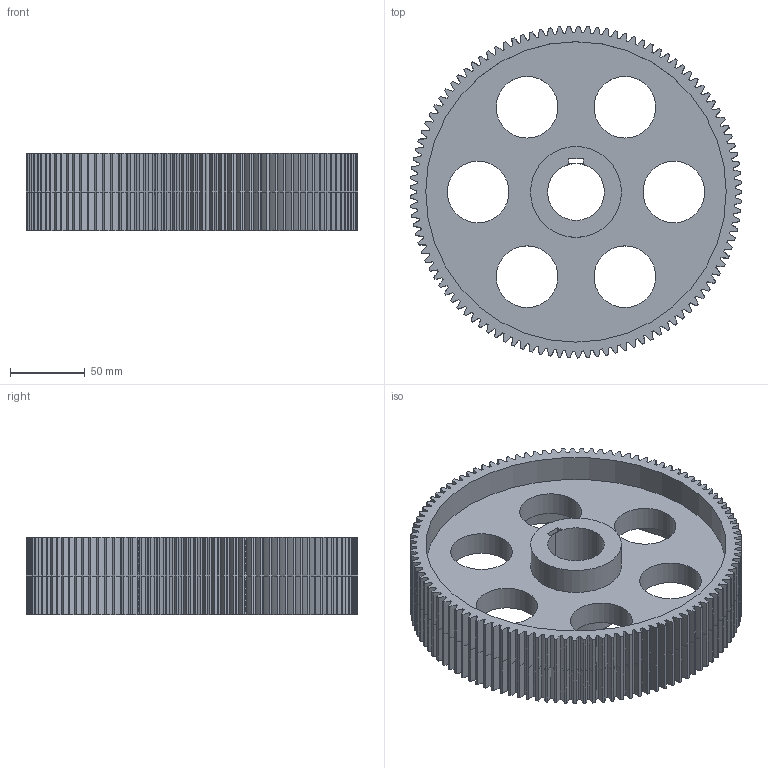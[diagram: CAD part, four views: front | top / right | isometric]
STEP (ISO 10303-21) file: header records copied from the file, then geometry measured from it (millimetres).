
FILE_DESCRIPTION(('Open CASCADE Model'),'2;1');
FILE_NAME('Open CASCADE Shape Model','2026-09-15T22:57:54',('Author'),( 'Open CASCADE'),'Open CASCADE STEP processor 7.9','build123d', 'Unknown');
FILE_SCHEMA(('AUTOMOTIVE_DESIGN { 1 0 10303 214 1 1 1 1 }'));
Length unit declared in the file: millimetre
Products named in the file (1): COMPOUND
Bounding box: 221.97 x 221.99 x 52 mm (x, y, z)
Volume: 709356.4 mm3; surface area: 177357.4 mm2
Topology: 1 solids, 1 shells, 677 faces, 2012 edges, 1340 vertices
Faces by surface type: extrusion 436, cylinder 230, plane 11
Full cylindrical faces by diameter (mm): 41.235 x6, 60.8 x2, 201 x2
Entity records: 69572 total; most frequent: CARTESIAN_POINT 31016, DIRECTION 6296, VECTOR 4440, ORIENTED_EDGE 4026, PCURVE 4024, DEFINITIONAL_REPRESENTATION 4024, LINE 4004, EDGE_CURVE 2012
